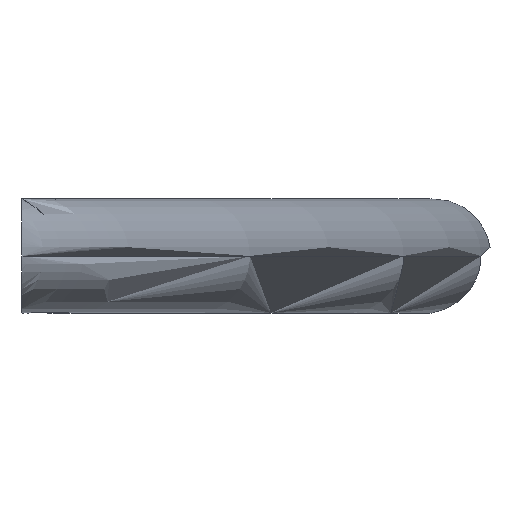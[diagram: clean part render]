
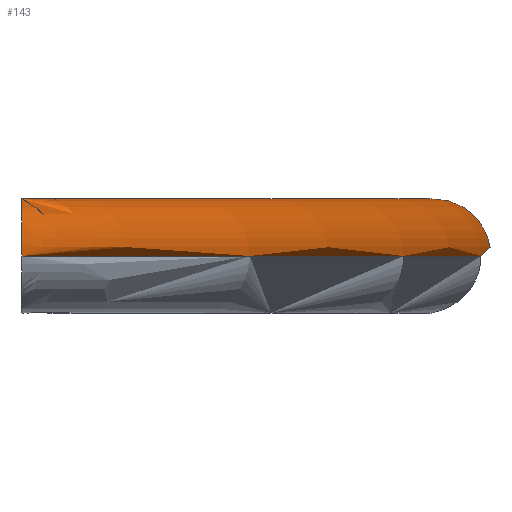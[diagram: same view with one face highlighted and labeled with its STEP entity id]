
A CAD part, left-side view. The second image highlights one B-rep face of the part: STEP entity #143.
In plain terms, the highlighted toroidal (fillet/blend) face has major radius 488.78 mm and minor radius 5 mm.
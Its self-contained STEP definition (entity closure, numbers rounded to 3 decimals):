
#79 = EDGE_CURVE( '', #111, #133, #179, .T. );
#105 = EDGE_CURVE( '', #111, #127, #210, .T. );
#109 = VERTEX_POINT( '', #214 );
#111 = VERTEX_POINT( '', #216 );
#113 = EDGE_CURVE( '', #109, #133, #218, .T. );
#123 = EDGE_CURVE( '', #109, #127, #228, .T. );
#127 = VERTEX_POINT( '', #233 );
#133 = VERTEX_POINT( '', #241 );
#143 = ADVANCED_FACE( '', ( #252 ), #253, .T. );
#179 = CIRCLE( '', #326, 493.78 );
#210 = B_SPLINE_CURVE_WITH_KNOTS( '', 3, ( #406, #407, #408, #409, #410, #411, #412, #413, #414, #415, #416, #417, #418, #419, #420, #421, #422, #423, #424, #425, #426, #427, #428, #429, #430, #431, #432, #433, #434, #435, #436, #437, #438, #439, #440, #441, #442, #443, #444, #445, #446, #447 ), .UNSPECIFIED., .F., .F., ( 4, 2, 2, 2, 2, 2, 2, 2, 2, 2, 2, 2, 2, 2, 2, 2, 2, 2, 2, 2, 4 ), ( 0., 0.377, 0.753, 1.226, 1.698, 3.406, 5.115, 7.322, 9.528, 11.735, 13.942, 19.413, 22.148, 23.515, 24.883, 26.098, 27.314, 27.67, 28.027, 28.321, 28.615 ), .UNSPECIFIED. );
#214 = CARTESIAN_POINT( '', ( 5.608, 0., 0. ) );
#216 = CARTESIAN_POINT( '', ( 373., 0., 0. ) );
#218 = B_SPLINE_CURVE_WITH_KNOTS( '', 3, ( #458, #459, #460, #461, #462, #463, #464, #465, #466, #467, #468, #469, #470, #471, #472, #473, #474, #475, #476, #477, #478, #479, #480, #481, #482, #483, #484, #485, #486, #487, #488, #489, #490, #491, #492, #493, #494, #495, #496, #497, #498, #499 ), .UNSPECIFIED., .F., .F., ( 4, 2, 2, 2, 2, 2, 2, 2, 2, 2, 2, 2, 2, 2, 2, 2, 2, 2, 2, 2, 4 ), ( 28.681, 28.975, 29.269, 29.625, 29.982, 31.197, 32.412, 33.78, 35.148, 37.883, 43.353, 45.56, 47.767, 49.974, 52.181, 53.889, 55.597, 56.07, 56.542, 56.919, 57.295 ), .UNSPECIFIED. );
#228 = CIRCLE( '', #510, 483.78 );
#233 = CARTESIAN_POINT( '', ( 346.392, 0., 0. ) );
#241 = CARTESIAN_POINT( '', ( -21., 0., 0. ) );
#252 = FACE_OUTER_BOUND( '', #537, .T. );
#253 = TOROIDAL_SURFACE( '', #538, 488.78, 5. );
#326 = AXIS2_PLACEMENT_3D( '', #568, #569, #570 );
#406 = CARTESIAN_POINT( '', ( 373., 0., 0. ) );
#407 = CARTESIAN_POINT( '', ( 373., 0., 0.126 ) );
#408 = CARTESIAN_POINT( '', ( 372.987, 0., 0.263 ) );
#409 = CARTESIAN_POINT( '', ( 372.934, 0., 0.531 ) );
#410 = CARTESIAN_POINT( '', ( 372.893, 0., 0.663 ) );
#411 = CARTESIAN_POINT( '', ( 372.789, 0., 0.926 ) );
#412 = CARTESIAN_POINT( '', ( 372.71, 0., 1.08 ) );
#413 = CARTESIAN_POINT( '', ( 372.525, 0., 1.37 ) );
#414 = CARTESIAN_POINT( '', ( 372.42, 0., 1.508 ) );
#415 = CARTESIAN_POINT( '', ( 371.945, 0., 2.057 ) );
#416 = CARTESIAN_POINT( '', ( 371.456, 0., 2.431 ) );
#417 = CARTESIAN_POINT( '', ( 370.398, 0., 3.066 ) );
#418 = CARTESIAN_POINT( '', ( 369.83, 0., 3.327 ) );
#419 = CARTESIAN_POINT( '', ( 368.615, 0., 3.804 ) );
#420 = CARTESIAN_POINT( '', ( 367.882, 0., 4.03 ) );
#421 = CARTESIAN_POINT( '', ( 366.362, 0., 4.406 ) );
#422 = CARTESIAN_POINT( '', ( 365.575, 0., 4.557 ) );
#423 = CARTESIAN_POINT( '', ( 363.987, 0., 4.789 ) );
#424 = CARTESIAN_POINT( '', ( 363.187, 0., 4.871 ) );
#425 = CARTESIAN_POINT( '', ( 361.616, 0., 4.977 ) );
#426 = CARTESIAN_POINT( '', ( 360.845, 0., 5. ) );
#427 = CARTESIAN_POINT( '', ( 358.286, 0., 5. ) );
#428 = CARTESIAN_POINT( '', ( 356.29, 0., 4.856 ) );
#429 = CARTESIAN_POINT( '', ( 353.37, 0., 4.349 ) );
#430 = CARTESIAN_POINT( '', ( 352.41, 0., 4.132 ) );
#431 = CARTESIAN_POINT( '', ( 351.028, 0., 3.72 ) );
#432 = CARTESIAN_POINT( '', ( 350.577, 0., 3.568 ) );
#433 = CARTESIAN_POINT( '', ( 349.704, 0., 3.23 ) );
#434 = CARTESIAN_POINT( '', ( 349.28, 0., 3.043 ) );
#435 = CARTESIAN_POINT( '', ( 348.516, 0., 2.647 ) );
#436 = CARTESIAN_POINT( '', ( 348.132, 0., 2.421 ) );
#437 = CARTESIAN_POINT( '', ( 347.426, 0., 1.898 ) );
#438 = CARTESIAN_POINT( '', ( 347.103, 0., 1.599 ) );
#439 = CARTESIAN_POINT( '', ( 346.789, 0., 1.18 ) );
#440 = CARTESIAN_POINT( '', ( 346.717, 0., 1.071 ) );
#441 = CARTESIAN_POINT( '', ( 346.591, 0., 0.843 ) );
#442 = CARTESIAN_POINT( '', ( 346.538, 0., 0.725 ) );
#443 = CARTESIAN_POINT( '', ( 346.466, 0., 0.52 ) );
#444 = CARTESIAN_POINT( '', ( 346.438, 0., 0.416 ) );
#445 = CARTESIAN_POINT( '', ( 346.401, 0., 0.205 ) );
#446 = CARTESIAN_POINT( '', ( 346.392, 0., 0.098 ) );
#447 = CARTESIAN_POINT( '', ( 346.392, 0., 0. ) );
#458 = CARTESIAN_POINT( '', ( 5.608, 0., 0. ) );
#459 = CARTESIAN_POINT( '', ( 5.608, 0., 0.098 ) );
#460 = CARTESIAN_POINT( '', ( 5.599, 0., 0.205 ) );
#461 = CARTESIAN_POINT( '', ( 5.562, 0., 0.416 ) );
#462 = CARTESIAN_POINT( '', ( 5.534, 0., 0.52 ) );
#463 = CARTESIAN_POINT( '', ( 5.462, 0., 0.725 ) );
#464 = CARTESIAN_POINT( '', ( 5.409, 0., 0.843 ) );
#465 = CARTESIAN_POINT( '', ( 5.283, 0., 1.071 ) );
#466 = CARTESIAN_POINT( '', ( 5.211, 0., 1.18 ) );
#467 = CARTESIAN_POINT( '', ( 4.897, 0., 1.599 ) );
#468 = CARTESIAN_POINT( '', ( 4.574, 0., 1.898 ) );
#469 = CARTESIAN_POINT( '', ( 3.868, 0., 2.421 ) );
#470 = CARTESIAN_POINT( '', ( 3.484, 0., 2.647 ) );
#471 = CARTESIAN_POINT( '', ( 2.72, 0., 3.043 ) );
#472 = CARTESIAN_POINT( '', ( 2.296, 0., 3.23 ) );
#473 = CARTESIAN_POINT( '', ( 1.423, 0., 3.568 ) );
#474 = CARTESIAN_POINT( '', ( 0.972, 0., 3.72 ) );
#475 = CARTESIAN_POINT( '', ( -0.41, 0., 4.132 ) );
#476 = CARTESIAN_POINT( '', ( -1.37, 0., 4.349 ) );
#477 = CARTESIAN_POINT( '', ( -4.29, 0., 4.856 ) );
#478 = CARTESIAN_POINT( '', ( -6.286, 0., 5. ) );
#479 = CARTESIAN_POINT( '', ( -8.845, 0., 5. ) );
#480 = CARTESIAN_POINT( '', ( -9.616, 0., 4.977 ) );
#481 = CARTESIAN_POINT( '', ( -11.187, 0., 4.871 ) );
#482 = CARTESIAN_POINT( '', ( -11.987, 0., 4.789 ) );
#483 = CARTESIAN_POINT( '', ( -13.575, 0., 4.557 ) );
#484 = CARTESIAN_POINT( '', ( -14.362, 0., 4.406 ) );
#485 = CARTESIAN_POINT( '', ( -15.882, 0., 4.03 ) );
#486 = CARTESIAN_POINT( '', ( -16.615, 0., 3.804 ) );
#487 = CARTESIAN_POINT( '', ( -17.83, 0., 3.327 ) );
#488 = CARTESIAN_POINT( '', ( -18.398, 0., 3.066 ) );
#489 = CARTESIAN_POINT( '', ( -19.456, 0., 2.431 ) );
#490 = CARTESIAN_POINT( '', ( -19.945, 0., 2.057 ) );
#491 = CARTESIAN_POINT( '', ( -20.42, 0., 1.508 ) );
#492 = CARTESIAN_POINT( '', ( -20.525, 0., 1.37 ) );
#493 = CARTESIAN_POINT( '', ( -20.71, 0., 1.08 ) );
#494 = CARTESIAN_POINT( '', ( -20.789, 0., 0.926 ) );
#495 = CARTESIAN_POINT( '', ( -20.893, 0., 0.663 ) );
#496 = CARTESIAN_POINT( '', ( -20.934, 0., 0.531 ) );
#497 = CARTESIAN_POINT( '', ( -20.987, 0., 0.263 ) );
#498 = CARTESIAN_POINT( '', ( -21., 0., 0.126 ) );
#499 = CARTESIAN_POINT( '', ( -21., 0., 0. ) );
#510 = AXIS2_PLACEMENT_3D( '', #614, #615, #616 );
#537 = EDGE_LOOP( '', ( #646, #647, #648, #649 ) );
#538 = AXIS2_PLACEMENT_3D( '', #650, #651, #652 );
#568 = CARTESIAN_POINT( '', ( 176., 452.78, 0. ) );
#569 = DIRECTION( '', ( 0., 0., -1. ) );
#570 = DIRECTION( '', ( -1., 0., 0. ) );
#614 = CARTESIAN_POINT( '', ( 176., 452.78, 0. ) );
#615 = DIRECTION( '', ( 0., 0., 1. ) );
#616 = DIRECTION( '', ( -1., 0., 0. ) );
#646 = ORIENTED_EDGE( '', *, *, #79, .F. );
#647 = ORIENTED_EDGE( '', *, *, #105, .T. );
#648 = ORIENTED_EDGE( '', *, *, #123, .F. );
#649 = ORIENTED_EDGE( '', *, *, #113, .T. );
#650 = CARTESIAN_POINT( '', ( 176., 452.78, 0. ) );
#651 = DIRECTION( '', ( 0., 0., -1. ) );
#652 = DIRECTION( '', ( -1., 0., 0. ) );
